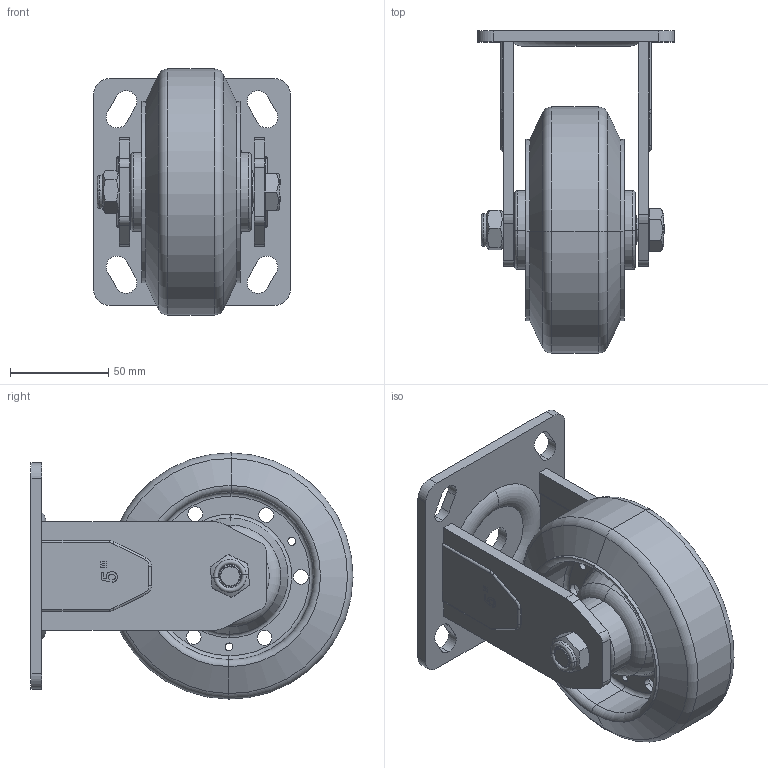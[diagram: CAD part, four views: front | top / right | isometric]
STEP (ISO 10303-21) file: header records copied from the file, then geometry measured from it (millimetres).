
FILE_DESCRIPTION (( 'STEP AP203' ), '1' );
FILE_NAME ('重型5寸定向.STEP', '2024-04-12T09:44:31', ( '微软用户' ), ( '微软中国' ), 'SwSTEP 2.0', 'SolidWorks 2008', '' );
FILE_SCHEMA (( 'CONFIG_CONTROL_DESIGN' ));
Length unit declared in the file: millimetre
Products named in the file (6): 12｡ﾁ85ﾂﾝｸﾋ_ﾄｬﾈﾏ; 5寸橡胶轮_默认; M7  5寸定向侧臂_默认; 笭倰5渡隅砃; M7 重型固定底板_默认; M12螺母_默认
Assembly tree (5 placements, depth 2):
  笭倰5渡隅砃
    M7  5寸定向侧臂_默认
    5寸橡胶轮_默认
    12｡ﾁ85ﾂﾝｸﾋ_ﾄｬﾈﾏ
    M12螺母_默认
    M7 重型固定底板_默认
Bounding box: 100 x 163.49 x 124.99 mm (x, y, z)
Volume: 508774.8 mm3; surface area: 117905 mm2
Topology: 6 solids, 6 shells, 373 faces, 937 edges, 600 vertices
Faces by surface type: plane 155, cylinder 106, bspline 50, torus 44, cone 18
Entity records: 16595 total; most frequent: CARTESIAN_POINT 7162, ORIENTED_EDGE 1874, DIRECTION 1744, EDGE_CURVE 937, AXIS2_PLACEMENT_3D 619, VERTEX_POINT 600, VECTOR 506, LINE 506
